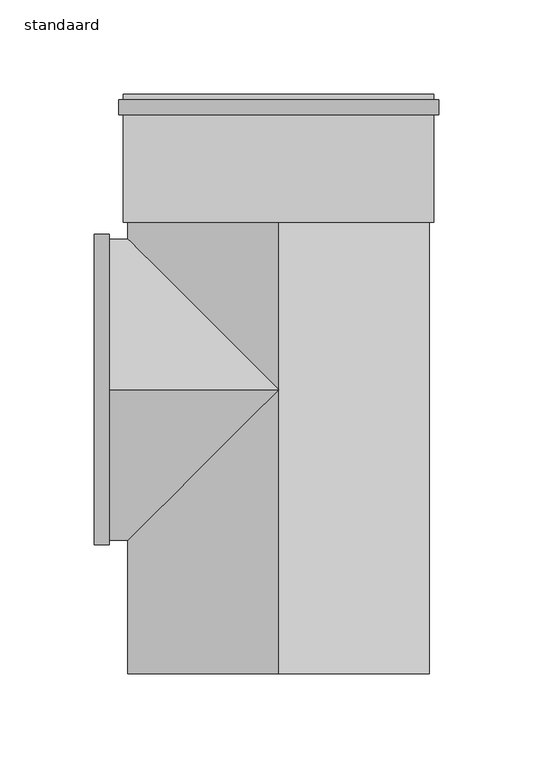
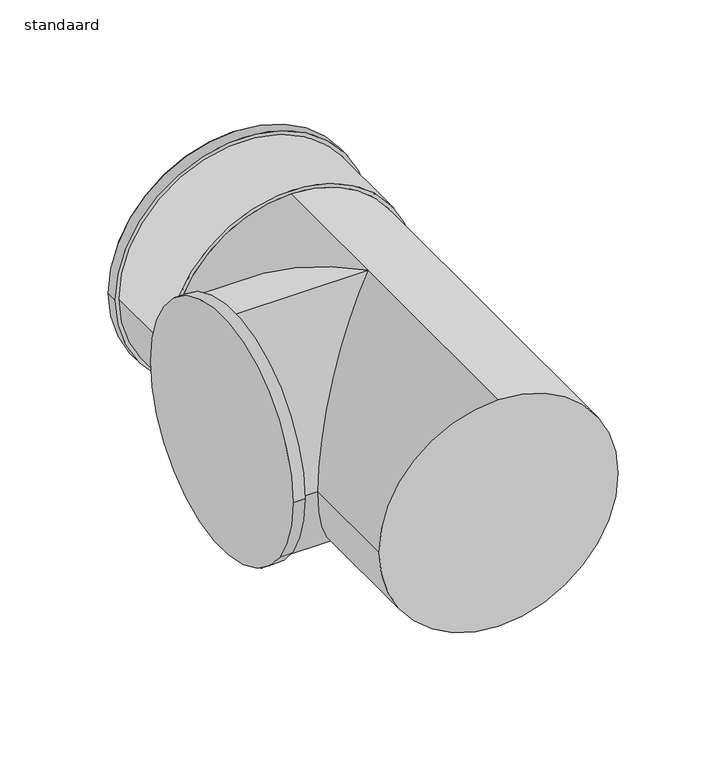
"""IFC4 building model written with IfcOpenShell, lengths in millimetres: pipe fitting geometry, 400_52_Dyka_PP_DykaStil_ontstoppingsstuk : standaard."""

from ifc_helpers import new_model, si_unit, point, frame, origin, origin_2d, place, context, project, spatial, circle_curve, ellipse_curve, trimmed, segment, composite_curve, outline, extrude, source, transform, mapped, element, save
from ifc_brep_helpers import plane_surface, cylinder_surface, advanced_brep


def standaard_1a3b355f(model_context):
    return source(origin(), model_context, "Body", "SolidModel", [
        advanced_brep(
        [(-98.0, 233.5, 0.0), (-98.0, 68.5, 0.0), (0.0, 151.0, 80.0), (-80.0, 231.0, 0.0), (-90.0, 231.0, 0.0), (-90.0, 151.0, 80.0), (0.0, 151.0, -80.0), (-90.0, 151.0, -80.0), (-80.0, 71.0, 0.0), (-90.0, 71.0, 0.0), (0.0, 240.0, 80.0), (80.0, 240.0, 0.0), (0.0, 240.0, -80.0), (-80.0, 240.0, 0.0), (0.0, 0.0, 80.0), (-80.0, 0.0, 0.0), (0.0, 0.0, -80.0), (80.0, 0.0, 0.0), (-90.0, 68.5, 0.0), (-90.0, 233.5, 0.0)],
        [
            (0, 1, circle_curve(frame((-98.0, 151.0, 0.0), z_axis=(-1.0, 0.0, 0.0), x_axis=(0.0, 1.0, 0.0)), 82.5)),
            (1, 0, circle_curve(frame((-98.0, 151.0, 0.0), z_axis=(-1.0, 0.0, 0.0), x_axis=(0.0, 1.0, 0.0)), 82.5)),
            (2, 3, ellipse_curve(frame((0.0, 151.0, 0.0), z_axis=(-0.7071067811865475, -0.7071067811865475, 0.0), x_axis=(-0.7071067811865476, 0.7071067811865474, 0.0)), 113.137085, 80.0)),
            (3, 4),
            (4, 5, circle_curve(frame((-90.0, 151.0, 0.0), z_axis=(1.0, 0.0, 0.0), x_axis=(0.0, 1.0, 0.0)), 80.0)),
            (5, 2),
            (3, 6, ellipse_curve(frame((0.0, 151.0, 0.0), z_axis=(-0.7071067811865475, -0.7071067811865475, 0.0), x_axis=(-0.7071067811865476, 0.7071067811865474, 0.0)), 113.137085, 80.0)),
            (6, 7),
            (7, 4, circle_curve(frame((-90.0, 151.0, 0.0), z_axis=(1.0, 0.0, 0.0), x_axis=(0.0, 1.0, 0.0)), 80.0)),
            (6, 8, ellipse_curve(frame((0.0, 151.0, 0.0), z_axis=(-0.7071067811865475, 0.7071067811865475, 0.0), x_axis=(-0.7071067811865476, -0.7071067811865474, 0.0)), 113.137085, 80.0)),
            (8, 9),
            (9, 7, circle_curve(frame((-90.0, 151.0, 0.0), z_axis=(1.0, 0.0, 0.0), x_axis=(0.0, 1.0, 0.0)), 80.0)),
            (8, 2, ellipse_curve(frame((0.0, 151.0, 0.0), z_axis=(-0.7071067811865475, 0.7071067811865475, 0.0), x_axis=(-0.7071067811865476, -0.7071067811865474, 0.0)), 113.137085, 80.0)),
            (5, 9, circle_curve(frame((-90.0, 151.0, 0.0), z_axis=(1.0, 0.0, 0.0), x_axis=(0.0, 1.0, 0.0)), 80.0)),
            (10, 11, circle_curve(frame((0.0, 240.0, 0.0), z_axis=(0.0, 1.0, 0.0), x_axis=(1.0, 0.0, 0.0)), 80.0)),
            (11, 12, circle_curve(frame((0.0, 240.0, 0.0), z_axis=(0.0, 1.0, 0.0), x_axis=(1.0, 0.0, 0.0)), 80.0)),
            (12, 13, circle_curve(frame((0.0, 240.0, 0.0), z_axis=(0.0, 1.0, 0.0), x_axis=(1.0, 0.0, 0.0)), 80.0)),
            (13, 10, circle_curve(frame((0.0, 240.0, 0.0), z_axis=(0.0, 1.0, 0.0), x_axis=(1.0, 0.0, 0.0)), 80.0)),
            (14, 15, circle_curve(frame((0.0, 0.0, 0.0), z_axis=(0.0, -1.0, 0.0), x_axis=(1.0, 0.0, 0.0)), 80.0)),
            (15, 16, circle_curve(frame((0.0, 0.0, 0.0), z_axis=(0.0, -1.0, 0.0), x_axis=(1.0, 0.0, 0.0)), 80.0)),
            (16, 17, circle_curve(frame((0.0, 0.0, 0.0), z_axis=(0.0, -1.0, 0.0), x_axis=(1.0, 0.0, 0.0)), 80.0)),
            (17, 14, circle_curve(frame((0.0, 0.0, 0.0), z_axis=(0.0, -1.0, 0.0), x_axis=(1.0, 0.0, 0.0)), 80.0)),
            (10, 2),
            (2, 14),
            (17, 11),
            (16, 6),
            (6, 12),
            (3, 13),
            (15, 8),
            (18, 19, circle_curve(frame((-90.0, 151.0, 0.0), z_axis=(1.0, 0.0, 0.0), x_axis=(0.0, 1.0, 0.0)), 82.5)),
            (19, 4),
            (9, 18),
            (19, 18, circle_curve(frame((-90.0, 151.0, 0.0), z_axis=(1.0, 0.0, 0.0), x_axis=(0.0, 1.0, 0.0)), 82.5)),
            (0, 19),
            (18, 1),
        ],
        [
            plane_surface(frame((-98.0, 151.0, 0.0), z_axis=(-1.0, 0.0, 0.0), x_axis=(0.0, 0.0, 1.0))),
            cylinder_surface(frame((-98.0, 151.0, 0.0), z_axis=(-1.0, 0.0, 0.0), x_axis=(0.0, 1.0, 0.0)), 80.0),
            plane_surface(frame((0.0, 240.0, 0.0), z_axis=(0.0, 1.0, 0.0), x_axis=(0.0, 0.0, 1.0))),
            plane_surface(frame((0.0, 0.0, 0.0), z_axis=(0.0, -1.0, 0.0), x_axis=(0.0, 0.0, 1.0))),
            cylinder_surface(frame((0.0, 240.0, 0.0), z_axis=(0.0, 1.0, 0.0), x_axis=(1.0, 0.0, 0.0)), 80.0),
            plane_surface(frame((-90.0, 151.0, 0.0), z_axis=(1.0, 0.0, 0.0), x_axis=(0.0, 1.0, 0.0))),
            cylinder_surface(frame((-408.1143452, 151.0, 0.0), z_axis=(-1.0, 0.0, 0.0), x_axis=(0.0, 1.0, 0.0)), 82.5),
        ],
        [
            (0, [[1, 2]]),
            (1, [[3, 4, 5, 6]]),
            (1, [[7, 8, 9, -4]]),
            (1, [[10, 11, 12, -8]]),
            (1, [[13, -6, 14, -11]]),
            (2, [[15, 16, 17, 18]]),
            (3, [[19, 20, 21, 22]]),
            (4, [[-15, 23, 24, -22, 25]]),
            (4, [[-16, -25, -21, 26, 27]]),
            (4, [[-17, -27, -7, 28]]),
            (4, [[-20, 29, -10, -26]]),
            (4, [[-18, -28, -3, -23]]),
            (4, [[-19, -24, -13, -29]]),
            (5, [[30, 31, -9, -12, 32]]),
            (5, [[-31, 33, -32, -14, -5]]),
            (6, [[-1, 34, -30, 35]]),
            (6, [[-2, -35, -33, -34]]),
        ],
    ),
        extrude(outline(composite_curve([segment(trimmed(circle_curve(origin_2d(), 85.0), [point((0.0, -85.0))], [point((0.0, 85.0))], False, "CARTESIAN"), True, "CONTINUOUS"), segment(trimmed(circle_curve(origin_2d(), 85.0), [point((0.0, 85.0))], [point((0.0, -85.0))], False, "CARTESIAN"), True, "CONTINUOUS")], self_intersect=False), holes=[composite_curve([segment(trimmed(circle_curve(origin_2d(), 82.5), [point((0.0, -82.5))], [point((0.0, 82.5))], True, "CARTESIAN"), True, "CONTINUOUS"), segment(trimmed(circle_curve(origin_2d(), 82.5), [point((0.0, 82.5))], [point((0.0, -82.5))], True, "CARTESIAN"), True, "CONTINUOUS")], self_intersect=False)]), frame((0.0, 297.0, 0.0), z_axis=(0.0, 1.0, 0.0), x_axis=(0.0, 0.0, 1.0)), (0.0, 0.0, 1.0), 8.0),
        extrude(outline(composite_curve([segment(trimmed(circle_curve(origin_2d(), 82.5), [point((0.0, 82.5))], [point((0.0, -82.5))], False, "CARTESIAN"), True, "CONTINUOUS"), segment(trimmed(circle_curve(origin_2d(), 82.5), [point((0.0, -82.5))], [point((0.0, 82.5))], False, "CARTESIAN"), True, "CONTINUOUS")], self_intersect=False), holes=[composite_curve([segment(trimmed(circle_curve(origin_2d(), 80.0), [point((0.0, 80.0))], [point((0.0, -80.0))], True, "CARTESIAN"), True, "CONTINUOUS"), segment(trimmed(circle_curve(origin_2d(), 80.0), [point((0.0, -80.0))], [point((0.0, 80.0))], True, "CARTESIAN"), True, "CONTINUOUS")], self_intersect=False)]), frame((0.0, 240.0, 0.0), z_axis=(0.0, 1.0, 0.0), x_axis=(0.0, 0.0, 1.0)), (0.0, 0.0, 1.0), 68.0),
    ])


if __name__ == "__main__":
    model = new_model("IFC4")
    model_context = context("Model", 3, world=origin())
    ifc_project = project(units=[si_unit("LENGTHUNIT", "METRE", prefix="MILLI")], contexts=[model_context])
    site = spatial("IfcSite", under=ifc_project)
    building = spatial("IfcBuilding", under=site)
    placement = place(None, origin())
    standaard_shape = standaard_1a3b355f(model_context)
    element("IfcPipeFitting", 1, ObjectType="400_52_Dyka_PP_DykaStil_ontstoppingsstuk : standaard", at=placement, inside=building, context=model_context, shape_type="MappedRepresentation", body=[
        mapped(standaard_shape, transform((0.0, 0.0, 0.0), x_axis=(1.0, 0.0, 0.0), y_axis=(0.0, 1.0, 0.0), z_axis=(0.0, 0.0, 1.0))),
    ])
    save(model, "model.ifc")
